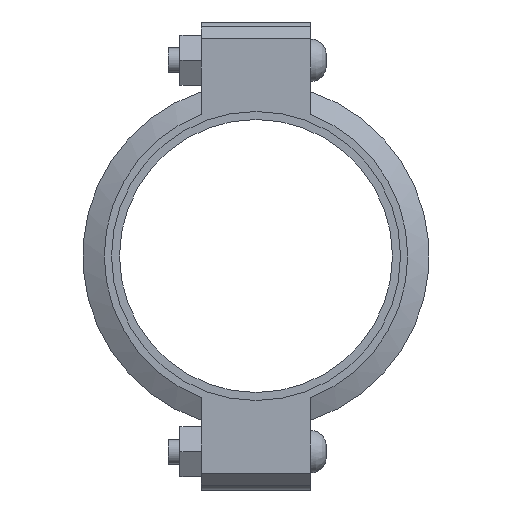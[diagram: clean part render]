
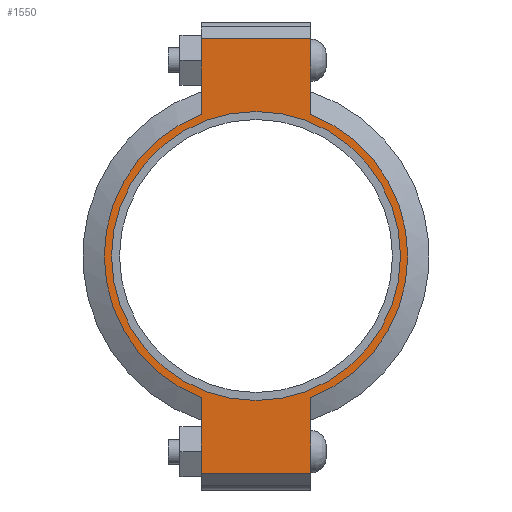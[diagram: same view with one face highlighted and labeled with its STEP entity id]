
A CAD part, left-side view. The second image highlights one B-rep face of the part: STEP entity #1550.
In plain terms, the highlighted planar face has unit normal (-1, 0, 0) as drawn and (0, 0, 1) by its records, which use the part's own axes.
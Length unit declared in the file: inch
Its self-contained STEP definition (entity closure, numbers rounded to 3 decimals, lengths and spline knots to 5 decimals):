
#174=LINE('',#2696,#267);
#182=LINE('',#2732,#275);
#189=LINE('',#2753,#282);
#198=LINE('',#2785,#291);
#199=LINE('',#2789,#292);
#200=LINE('',#2791,#293);
#267=VECTOR('',#2196,0.3937);
#275=VECTOR('',#2212,0.3937);
#282=VECTOR('',#2231,0.3937);
#291=VECTOR('',#2256,0.3937);
#292=VECTOR('',#2261,0.3937);
#293=VECTOR('',#2262,0.3937);
#349=FACE_BOUND('',#527,.T.);
#421=FACE_OUTER_BOUND('',#526,.T.);
#526=EDGE_LOOP('',(#1291,#1292,#1293,#1294,#1295,#1296,#1297,#1298));
#527=EDGE_LOOP('',(#1299));
#599=CIRCLE('',#1760,4.3125);
#625=CIRCLE('',#1819,4.53);
#626=CIRCLE('',#1820,4.53);
#691=VERTEX_POINT('',#2512);
#734=VERTEX_POINT('',#2693);
#735=VERTEX_POINT('',#2695);
#746=VERTEX_POINT('',#2727);
#747=VERTEX_POINT('',#2731);
#754=VERTEX_POINT('',#2750);
#755=VERTEX_POINT('',#2752);
#765=VERTEX_POINT('',#2788);
#766=VERTEX_POINT('',#2790);
#847=EDGE_CURVE('',#691,#691,#599,.T.);
#908=EDGE_CURVE('',#735,#734,#174,.T.);
#922=EDGE_CURVE('',#747,#746,#182,.T.);
#932=EDGE_CURVE('',#755,#754,#189,.T.);
#947=EDGE_CURVE('',#747,#734,#198,.T.);
#948=EDGE_CURVE('',#746,#755,#625,.T.);
#949=EDGE_CURVE('',#765,#754,#199,.T.);
#950=EDGE_CURVE('',#765,#766,#200,.T.);
#951=EDGE_CURVE('',#766,#735,#626,.T.);
#1291=ORIENTED_EDGE('',*,*,#947,.F.);
#1292=ORIENTED_EDGE('',*,*,#922,.T.);
#1293=ORIENTED_EDGE('',*,*,#948,.T.);
#1294=ORIENTED_EDGE('',*,*,#932,.T.);
#1295=ORIENTED_EDGE('',*,*,#949,.F.);
#1296=ORIENTED_EDGE('',*,*,#950,.T.);
#1297=ORIENTED_EDGE('',*,*,#951,.T.);
#1298=ORIENTED_EDGE('',*,*,#908,.T.);
#1299=ORIENTED_EDGE('',*,*,#847,.T.);
#1392=PLANE('',#1818);
#1550=ADVANCED_FACE('',(#421,#349),#1392,.T.);
#1760=AXIS2_PLACEMENT_3D('',#2514,#2072,#2073);
#1818=AXIS2_PLACEMENT_3D('',#2786,#2257,#2258);
#1819=AXIS2_PLACEMENT_3D('',#2787,#2259,#2260);
#1820=AXIS2_PLACEMENT_3D('',#2792,#2263,#2264);
#2072=DIRECTION('center_axis',(0.,0.,-1.));
#2073=DIRECTION('ref_axis',(-1.,0.,0.));
#2196=DIRECTION('',(-1.,0.,0.));
#2212=DIRECTION('',(1.,0.,0.));
#2231=DIRECTION('',(1.,0.,0.));
#2256=DIRECTION('',(0.,1.,0.));
#2257=DIRECTION('center_axis',(0.,0.,1.));
#2258=DIRECTION('ref_axis',(1.,0.,0.));
#2259=DIRECTION('center_axis',(0.,0.,1.));
#2260=DIRECTION('ref_axis',(-1.,0.,0.));
#2261=DIRECTION('',(0.,-1.,0.));
#2262=DIRECTION('',(-1.,0.,0.));
#2263=DIRECTION('center_axis',(0.,0.,1.));
#2264=DIRECTION('ref_axis',(-1.,0.,0.));
#2512=CARTESIAN_POINT('',(4.3125,0.,1.16));
#2514=CARTESIAN_POINT('Origin',(0.,0.,1.16));
#2693=CARTESIAN_POINT('',(-6.485,1.63,1.16));
#2695=CARTESIAN_POINT('',(-4.22658,1.63,1.16));
#2696=CARTESIAN_POINT('',(-6.985,1.63,1.16));
#2727=CARTESIAN_POINT('',(-4.22658,-1.63,1.16));
#2731=CARTESIAN_POINT('',(-6.485,-1.63,1.16));
#2732=CARTESIAN_POINT('',(6.985,-1.63,1.16));
#2750=CARTESIAN_POINT('',(6.485,-1.63,1.16));
#2752=CARTESIAN_POINT('',(4.22658,-1.63,1.16));
#2753=CARTESIAN_POINT('',(6.985,-1.63,1.16));
#2785=CARTESIAN_POINT('',(-6.485,0.815,1.16));
#2786=CARTESIAN_POINT('Origin',(0.,0.,
1.16));
#2787=CARTESIAN_POINT('Origin',(0.,0.,1.16));
#2788=CARTESIAN_POINT('',(6.485,1.63,1.16));
#2789=CARTESIAN_POINT('',(6.485,-0.815,1.16));
#2790=CARTESIAN_POINT('',(4.22658,1.63,1.16));
#2791=CARTESIAN_POINT('',(-6.985,1.63,1.16));
#2792=CARTESIAN_POINT('Origin',(0.,0.,1.16));
